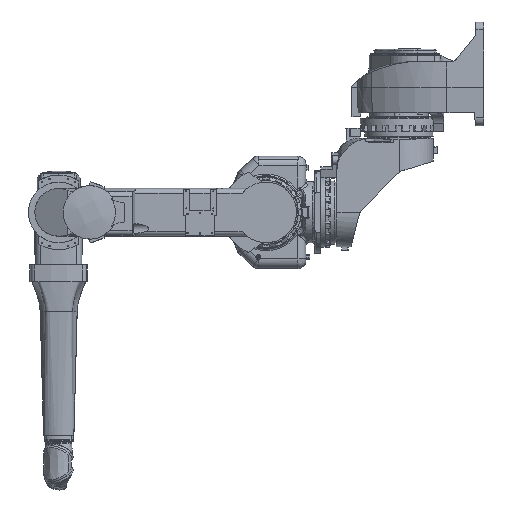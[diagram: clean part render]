
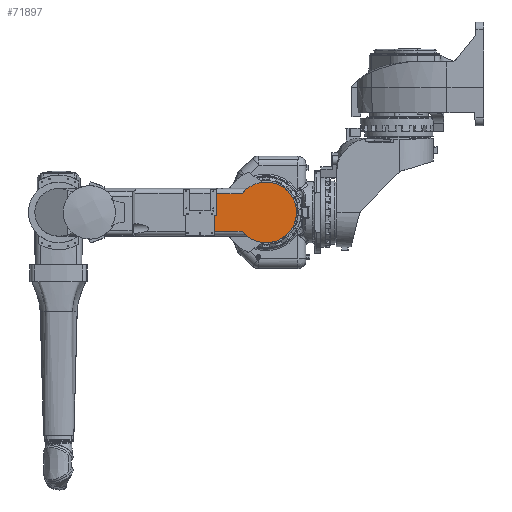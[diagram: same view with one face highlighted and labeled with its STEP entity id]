
A CAD part, left-side view. The second image highlights one B-rep face of the part: STEP entity #71897.
In plain terms, the highlighted planar face has unit normal (-1, 0, 0) as drawn and (0, 0, 1) by its records, which use the part's own axes.
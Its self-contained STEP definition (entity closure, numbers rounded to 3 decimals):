
#273 = LINE ( 'NONE', #435, #88046 ) ;
#435 = CARTESIAN_POINT ( 'NONE',  ( 0., 20., 387. ) ) ;
#2299 = VERTEX_POINT ( 'NONE', #92890 ) ;
#5368 = VECTOR ( 'NONE', #19348, 1000. ) ;
#8790 = CARTESIAN_POINT ( 'NONE',  ( 325., 0., 387. ) ) ;
#13029 = ORIENTED_EDGE ( 'NONE', *, *, #67648, .T. ) ;
#13628 = VERTEX_POINT ( 'NONE', #101390 ) ;
#16476 = CARTESIAN_POINT ( 'NONE',  ( 310., 0., 387. ) ) ;
#19348 = DIRECTION ( 'NONE',  ( 0., 1., 0. ) ) ;
#24144 = DIRECTION ( 'NONE',  ( -1., 0., 0. ) ) ;
#28180 = PLANE ( 'NONE',  #56178 ) ;
#31280 = CARTESIAN_POINT ( 'NONE',  ( 149.14, -118.224, 387. ) ) ;
#31793 = FACE_OUTER_BOUND ( 'NONE', #103867, .T. ) ;
#33480 = EDGE_CURVE ( 'NONE', #109872, #84359, #124486, .T. ) ;
#36725 = VECTOR ( 'NONE', #49662, 1000. ) ;
#41119 = LINE ( 'NONE', #78468, #70437 ) ;
#43345 = ORIENTED_EDGE ( 'NONE', *, *, #92070, .F. ) ;
#47625 = CARTESIAN_POINT ( 'NONE',  ( 0., 0., 387. ) ) ;
#49662 = DIRECTION ( 'NONE',  ( 0., 1., 0. ) ) ;
#50515 = VERTEX_POINT ( 'NONE', #31280 ) ;
#55261 = DIRECTION ( 'NONE',  ( 1., 0., 0. ) ) ;
#55734 = ORIENTED_EDGE ( 'NONE', *, *, #33480, .T. ) ;
#56178 = AXIS2_PLACEMENT_3D ( 'NONE', #137770, #138226, #72419 ) ;
#58243 = EDGE_CURVE ( 'NONE', #2299, #13628, #129755, .T. ) ;
#58677 = DIRECTION ( 'NONE',  ( -1., 0., 0. ) ) ;
#66314 = DIRECTION ( 'NONE',  ( 1., 0., 0. ) ) ;
#66365 = CARTESIAN_POINT ( 'NONE',  ( 0., 116.839, 387. ) ) ;
#67648 = EDGE_CURVE ( 'NONE', #100398, #13628, #89739, .T. ) ;
#70437 = VECTOR ( 'NONE', #24144, 1000. ) ;
#71897 = ADVANCED_FACE ( 'NONE', ( #31793 ), #28180, .F. ) ;
#72419 = DIRECTION ( 'NONE',  ( -1., 0., 0. ) ) ;
#74431 = CARTESIAN_POINT ( 'NONE',  ( 310., -118.224, 387. ) ) ;
#78468 = CARTESIAN_POINT ( 'NONE',  ( 0., -118.224, 387. ) ) ;
#79317 = ORIENTED_EDGE ( 'NONE', *, *, #58243, .F. ) ;
#83447 = ORIENTED_EDGE ( 'NONE', *, *, #122397, .T. ) ;
#84359 = VERTEX_POINT ( 'NONE', #93684 ) ;
#85194 = AXIS2_PLACEMENT_3D ( 'NONE', #47625, #124561, #58677 ) ;
#88046 = VECTOR ( 'NONE', #66314, 1000. ) ;
#89739 = LINE ( 'NONE', #8790, #5368 ) ;
#92070 = EDGE_CURVE ( 'NONE', #109872, #50515, #41119, .T. ) ;
#92890 = CARTESIAN_POINT ( 'NONE',  ( 150.227, 116.839, 387. ) ) ;
#93684 = CARTESIAN_POINT ( 'NONE',  ( 310., 20., 387. ) ) ;
#100398 = VERTEX_POINT ( 'NONE', #129505 ) ;
#101390 = CARTESIAN_POINT ( 'NONE',  ( 325., 116.839, 387. ) ) ;
#103867 = EDGE_LOOP ( 'NONE', ( #43345, #55734, #83447, #13029, #79317, #112839 ) ) ;
#109872 = VERTEX_POINT ( 'NONE', #74431 ) ;
#112839 = ORIENTED_EDGE ( 'NONE', *, *, #139618, .F. ) ;
#117229 = CIRCLE ( 'NONE', #85194, 190.314 ) ;
#122397 = EDGE_CURVE ( 'NONE', #84359, #100398, #273, .T. ) ;
#124486 = LINE ( 'NONE', #16476, #36725 ) ;
#124561 = DIRECTION ( 'NONE',  ( 0., 0., -1. ) ) ;
#126335 = VECTOR ( 'NONE', #55261, 1000. ) ;
#129505 = CARTESIAN_POINT ( 'NONE',  ( 325., 20., 387. ) ) ;
#129755 = LINE ( 'NONE', #66365, #126335 ) ;
#137770 = CARTESIAN_POINT ( 'NONE',  ( 0., 0., 387. ) ) ;
#138226 = DIRECTION ( 'NONE',  ( 0., 0., -1. ) ) ;
#139618 = EDGE_CURVE ( 'NONE', #50515, #2299, #117229, .T. ) ;
